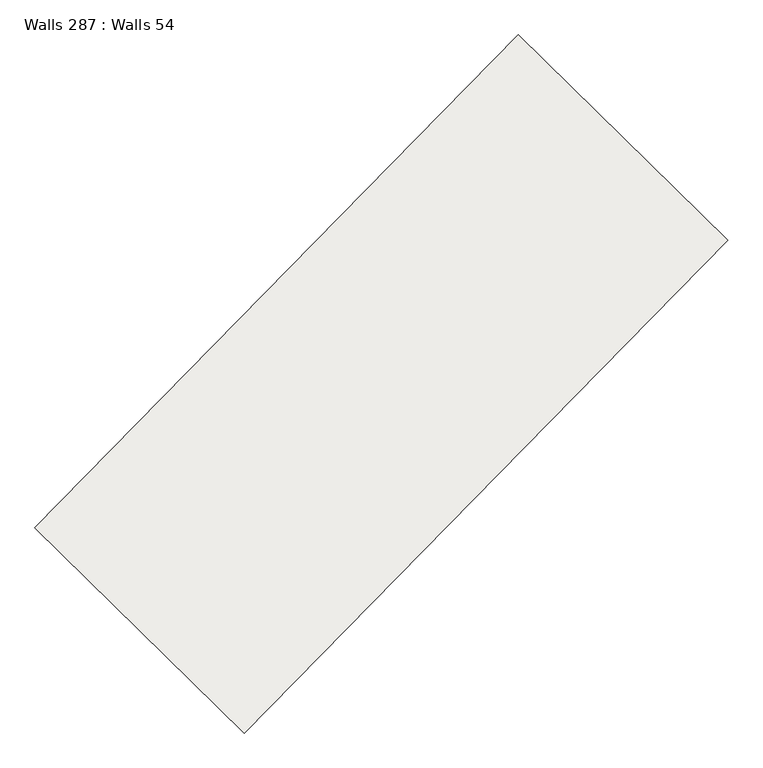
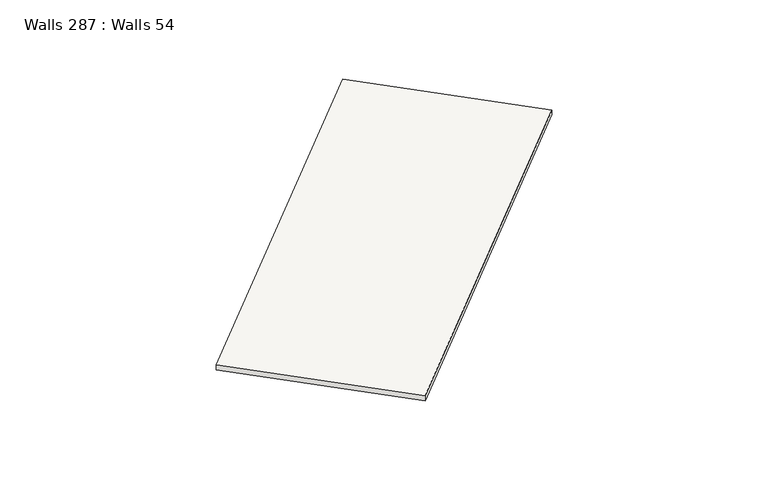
"""IFC4 building model written with IfcOpenShell, lengths in millimetres: slab geometry, Walls 287 : Walls 54."""

from ifc_helpers import new_model, si_unit, frame, origin, place, context, project, spatial, polyline, outline, extrude, source, transform, mapped, element, save


def walls_287_walls_54_a6d15352(model_context):
    return source(origin(), model_context, "Body", "SweptSolid", [
        extrude(outline(polyline([(-50.0, 0.0), (50.0, 0.0), (-40.0, -8699.9999996), (-140.0, -8699.9999996), (-50.0, 0.0)])), frame((-54792.6604244, -215179.6909865, 637250.0), z_axis=(-0.7137361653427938, 0.7004146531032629, 0.0), x_axis=(0.0, 0.0, 1.0)), (0.0, 0.0, 1.0), 3699.999995),
    ])


if __name__ == "__main__":
    model = new_model("IFC4")
    model_context = context("Model", 3, world=origin())
    ifc_project = project(units=[si_unit("LENGTHUNIT", "METRE", prefix="MILLI")], contexts=[model_context])
    site = spatial("IfcSite", under=ifc_project)
    building = spatial("IfcBuilding", under=site)
    placement = place(None, origin())
    walls_287_walls_54_shape = walls_287_walls_54_a6d15352(model_context)
    element("IfcSlab", 1, ObjectType="Walls 287 : Walls 54", at=placement, inside=building, context=model_context, shape_type="MappedRepresentation", body=[
        mapped(walls_287_walls_54_shape, transform((0.0, 0.0, 0.0), x_axis=(1.0, 0.0, 0.0), y_axis=(0.0, 1.0, 0.0), z_axis=(0.0, 0.0, 1.0))),
    ])
    save(model, "model.ifc")
